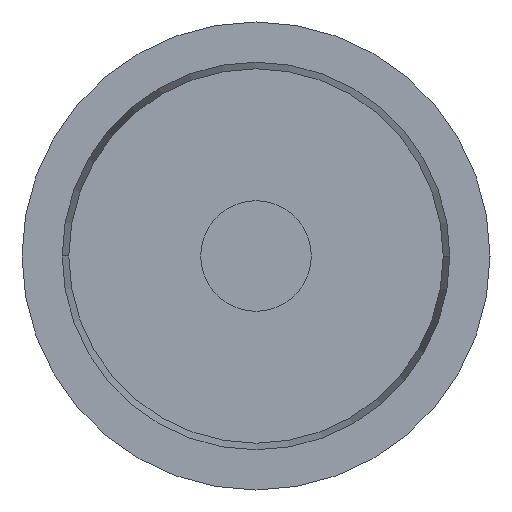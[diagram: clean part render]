
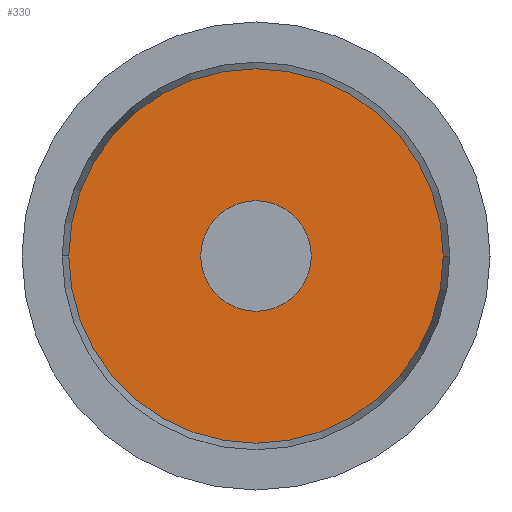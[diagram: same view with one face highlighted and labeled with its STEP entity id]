
A CAD part, left-side view. The second image highlights one B-rep face of the part: STEP entity #330.
In plain terms, the highlighted planar face has unit normal (-1, 0, 0).
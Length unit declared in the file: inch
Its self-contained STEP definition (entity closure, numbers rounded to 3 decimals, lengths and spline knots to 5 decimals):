
#13 = DIRECTION ( 'NONE',  ( 0., -1., 0. ) ) ;
#18 = CARTESIAN_POINT ( 'NONE',  ( -0.15, -0.05, 0. ) ) ;
#60 = DIRECTION ( 'NONE',  ( 0., -1., 0. ) ) ;
#90 = ORIENTED_EDGE ( 'NONE', *, *, #601, .F. ) ;
#106 = EDGE_LOOP ( 'NONE', ( #401, #993 ) ) ;
#132 = DIRECTION ( 'NONE',  ( -1., 0., 0. ) ) ;
#190 = CIRCLE ( 'NONE', #798, 0.05 ) ;
#215 = DIRECTION ( 'NONE',  ( 0., -1., 0. ) ) ;
#231 = FACE_OUTER_BOUND ( 'NONE', #106, .T. ) ;
#235 = EDGE_CURVE ( 'NONE', #752, #763, #190, .T. ) ;
#254 = CARTESIAN_POINT ( 'NONE',  ( -0.15, 0.01478, 0. ) ) ;
#257 = EDGE_CURVE ( 'NONE', #763, #752, #956, .T. ) ;
#292 = CARTESIAN_POINT ( 'NONE',  ( -0.15, 0., 0. ) ) ;
#296 = DIRECTION ( 'NONE',  ( -1., 0., 0. ) ) ;
#305 = CIRCLE ( 'NONE', #606, 0.01478 ) ;
#330 = ADVANCED_FACE ( 'NONE', ( #635, #231 ), #1034, .F. ) ;
#374 = CIRCLE ( 'NONE', #806, 0.01478 ) ;
#387 = CARTESIAN_POINT ( 'NONE',  ( -0.15, 0., 0. ) ) ;
#391 = DIRECTION ( 'NONE',  ( 0., 1., 0. ) ) ;
#401 = ORIENTED_EDGE ( 'NONE', *, *, #235, .T. ) ;
#540 = VERTEX_POINT ( 'NONE', #834 ) ;
#553 = DIRECTION ( 'NONE',  ( 0., -1., 0. ) ) ;
#572 = VERTEX_POINT ( 'NONE', #254 ) ;
#576 = AXIS2_PLACEMENT_3D ( 'NONE', #784, #132, #13 ) ;
#594 = CARTESIAN_POINT ( 'NONE',  ( -0.15, 0.05, 0. ) ) ;
#595 = EDGE_LOOP ( 'NONE', ( #90, #682 ) ) ;
#601 = EDGE_CURVE ( 'NONE', #540, #572, #374, .T. ) ;
#606 = AXIS2_PLACEMENT_3D ( 'NONE', #1017, #296, #553 ) ;
#616 = DIRECTION ( 'NONE',  ( -1., 0., 0. ) ) ;
#635 = FACE_BOUND ( 'NONE', #595, .T. ) ;
#676 = AXIS2_PLACEMENT_3D ( 'NONE', #802, #960, #391 ) ;
#682 = ORIENTED_EDGE ( 'NONE', *, *, #908, .F. ) ;
#752 = VERTEX_POINT ( 'NONE', #18 ) ;
#763 = VERTEX_POINT ( 'NONE', #594 ) ;
#784 = CARTESIAN_POINT ( 'NONE',  ( -0.15, 0., 0. ) ) ;
#798 = AXIS2_PLACEMENT_3D ( 'NONE', #292, #616, #215 ) ;
#802 = CARTESIAN_POINT ( 'NONE',  ( -0.15, 0.01478, 0. ) ) ;
#806 = AXIS2_PLACEMENT_3D ( 'NONE', #387, #1027, #60 ) ;
#834 = CARTESIAN_POINT ( 'NONE',  ( -0.15, -0.01478, 0. ) ) ;
#908 = EDGE_CURVE ( 'NONE', #572, #540, #305, .T. ) ;
#956 = CIRCLE ( 'NONE', #576, 0.05 ) ;
#960 = DIRECTION ( 'NONE',  ( 1., 0., 0. ) ) ;
#993 = ORIENTED_EDGE ( 'NONE', *, *, #257, .T. ) ;
#1017 = CARTESIAN_POINT ( 'NONE',  ( -0.15, 0., 0. ) ) ;
#1027 = DIRECTION ( 'NONE',  ( -1., 0., 0. ) ) ;
#1034 = PLANE ( 'NONE',  #676 ) ;
